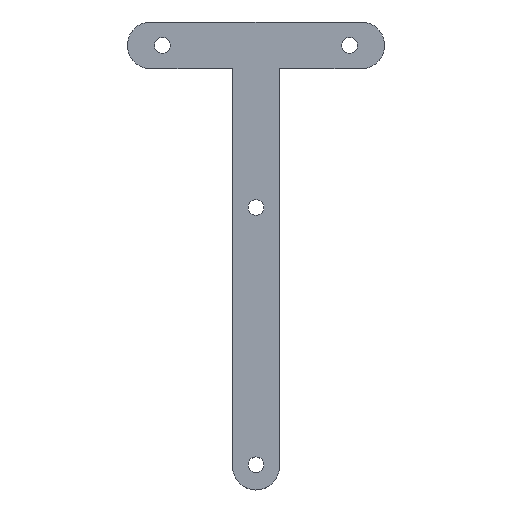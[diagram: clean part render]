
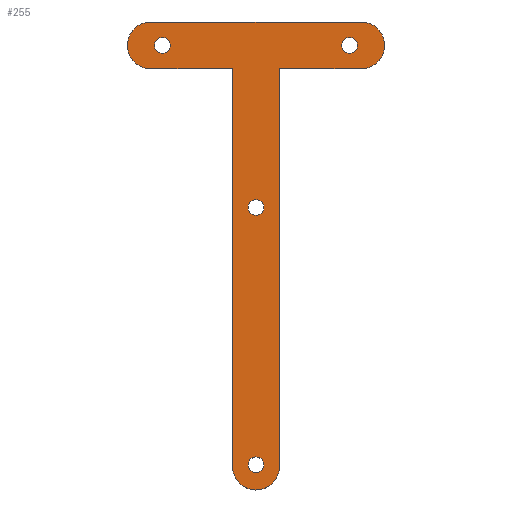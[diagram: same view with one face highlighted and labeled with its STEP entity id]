
A CAD part, top view. The second image highlights one B-rep face of the part: STEP entity #255.
In plain terms, the highlighted planar face has unit normal (0, 0, 1).
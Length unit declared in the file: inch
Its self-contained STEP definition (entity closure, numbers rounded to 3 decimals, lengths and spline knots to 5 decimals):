
#22=LINE('',#408,#40);
#24=LINE('',#412,#42);
#25=LINE('',#414,#43);
#26=LINE('',#418,#44);
#27=LINE('',#420,#45);
#40=VECTOR('',#330,2.25);
#42=VECTOR('',#334,0.875);
#43=VECTOR('',#335,4.25);
#44=VECTOR('',#338,4.25);
#45=VECTOR('',#339,0.875);
#53=PLANE('',#280);
#63=FACE_BOUND('',#94,.T.);
#64=FACE_BOUND('',#95,.T.);
#65=FACE_BOUND('',#96,.T.);
#66=FACE_BOUND('',#97,.T.);
#74=FACE_OUTER_BOUND('',#93,.T.);
#93=EDGE_LOOP('',(#202,#203,#204,#205,#206,#207,#208,#209));
#94=EDGE_LOOP('',(#210));
#95=EDGE_LOOP('',(#211));
#96=EDGE_LOOP('',(#212));
#97=EDGE_LOOP('',(#213));
#111=CIRCLE('',#269,0.085);
#118=CIRCLE('',#278,0.25);
#119=CIRCLE('',#281,0.25);
#120=CIRCLE('',#282,0.25);
#121=CIRCLE('',#283,0.085);
#122=CIRCLE('',#284,0.085);
#123=CIRCLE('',#285,0.085);
#125=VERTEX_POINT('',#375);
#137=VERTEX_POINT('',#401);
#138=VERTEX_POINT('',#402);
#139=VERTEX_POINT('',#407);
#140=VERTEX_POINT('',#411);
#141=VERTEX_POINT('',#413);
#142=VERTEX_POINT('',#415);
#143=VERTEX_POINT('',#417);
#144=VERTEX_POINT('',#419);
#145=VERTEX_POINT('',#422);
#146=VERTEX_POINT('',#424);
#147=VERTEX_POINT('',#426);
#149=EDGE_CURVE('',#125,#125,#111,.T.);
#161=EDGE_CURVE('',#137,#138,#118,.T.);
#164=EDGE_CURVE('',#139,#138,#22,.T.);
#166=EDGE_CURVE('',#137,#140,#24,.T.);
#167=EDGE_CURVE('',#140,#141,#25,.T.);
#168=EDGE_CURVE('',#142,#141,#119,.T.);
#169=EDGE_CURVE('',#142,#143,#26,.T.);
#170=EDGE_CURVE('',#143,#144,#27,.T.);
#171=EDGE_CURVE('',#139,#144,#120,.T.);
#172=EDGE_CURVE('',#145,#145,#121,.T.);
#173=EDGE_CURVE('',#146,#146,#122,.T.);
#174=EDGE_CURVE('',#147,#147,#123,.T.);
#202=ORIENTED_EDGE('',*,*,#161,.F.);
#203=ORIENTED_EDGE('',*,*,#166,.T.);
#204=ORIENTED_EDGE('',*,*,#167,.T.);
#205=ORIENTED_EDGE('',*,*,#168,.F.);
#206=ORIENTED_EDGE('',*,*,#169,.T.);
#207=ORIENTED_EDGE('',*,*,#170,.T.);
#208=ORIENTED_EDGE('',*,*,#171,.F.);
#209=ORIENTED_EDGE('',*,*,#164,.T.);
#210=ORIENTED_EDGE('',*,*,#149,.T.);
#211=ORIENTED_EDGE('',*,*,#172,.T.);
#212=ORIENTED_EDGE('',*,*,#173,.T.);
#213=ORIENTED_EDGE('',*,*,#174,.T.);
#255=ADVANCED_FACE('',(#74,#63,#64,#65,#66),#53,.T.);
#269=AXIS2_PLACEMENT_3D('',#376,#301,#302);
#278=AXIS2_PLACEMENT_3D('',#403,#324,#325);
#280=AXIS2_PLACEMENT_3D('',#410,#332,#333);
#281=AXIS2_PLACEMENT_3D('',#416,#336,#337);
#282=AXIS2_PLACEMENT_3D('',#421,#340,#341);
#283=AXIS2_PLACEMENT_3D('',#423,#342,#343);
#284=AXIS2_PLACEMENT_3D('',#425,#344,#345);
#285=AXIS2_PLACEMENT_3D('',#427,#346,#347);
#301=DIRECTION('center_axis',(0.,0.,-1.));
#302=DIRECTION('ref_axis',(1.,0.,0.));
#324=DIRECTION('center_axis',(0.,0.,-1.));
#325=DIRECTION('ref_axis',(-0.707,-0.707,0.));
#330=DIRECTION('',(-1.,0.,0.));
#332=DIRECTION('center_axis',(0.,0.,1.));
#333=DIRECTION('ref_axis',(1.,0.,0.));
#334=DIRECTION('',(1.,0.,0.));
#335=DIRECTION('',(0.,-1.,0.));
#336=DIRECTION('center_axis',(0.,0.,-1.));
#337=DIRECTION('ref_axis',(-0.707,-0.707,0.));
#338=DIRECTION('',(0.,1.,0.));
#339=DIRECTION('',(1.,0.,0.));
#340=DIRECTION('center_axis',(0.,0.,-1.));
#341=DIRECTION('ref_axis',(0.707,0.707,0.));
#342=DIRECTION('center_axis',(0.,0.,-1.));
#343=DIRECTION('ref_axis',(1.,0.,0.));
#344=DIRECTION('center_axis',(0.,0.,-1.));
#345=DIRECTION('ref_axis',(1.,0.,0.));
#346=DIRECTION('center_axis',(0.,0.,-1.));
#347=DIRECTION('ref_axis',(1.,0.,0.));
#375=CARTESIAN_POINT('',(1.46,-4.23205,0.25));
#376=CARTESIAN_POINT('Origin',(1.375,-4.23205,0.25));
#401=CARTESIAN_POINT('',(0.25,0.,0.25));
#402=CARTESIAN_POINT('',(0.25,0.5,0.25));
#403=CARTESIAN_POINT('Origin',(0.25,0.25,0.25));
#407=CARTESIAN_POINT('',(2.5,0.5,0.25));
#408=CARTESIAN_POINT('',(0.,0.5,0.25));
#410=CARTESIAN_POINT('Origin',(1.375,-1.34677,0.25));
#411=CARTESIAN_POINT('',(1.125,0.,0.25));
#412=CARTESIAN_POINT('',(1.125,0.,0.25));
#413=CARTESIAN_POINT('',(1.125,-4.25,0.25));
#414=CARTESIAN_POINT('',(1.125,-4.5,0.25));
#415=CARTESIAN_POINT('',(1.625,-4.25,0.25));
#416=CARTESIAN_POINT('Origin',(1.375,-4.25,0.25));
#417=CARTESIAN_POINT('',(1.625,0.,0.25));
#418=CARTESIAN_POINT('',(1.625,0.,0.25));
#419=CARTESIAN_POINT('',(2.5,0.,0.25));
#420=CARTESIAN_POINT('',(2.75,0.,0.25));
#421=CARTESIAN_POINT('Origin',(2.5,0.25,0.25));
#422=CARTESIAN_POINT('',(1.46,-1.48205,0.25));
#423=CARTESIAN_POINT('Origin',(1.375,-1.48205,0.25));
#424=CARTESIAN_POINT('',(2.46,0.25,0.25));
#425=CARTESIAN_POINT('Origin',(2.375,0.25,0.25));
#426=CARTESIAN_POINT('',(0.46,0.25,0.25));
#427=CARTESIAN_POINT('Origin',(0.375,0.25,0.25));
